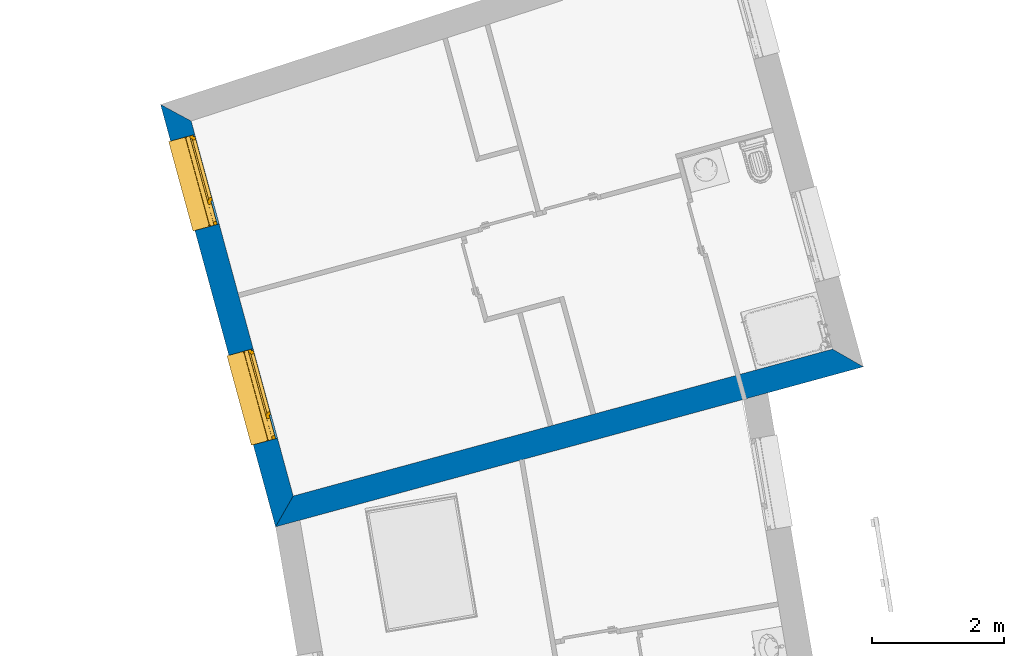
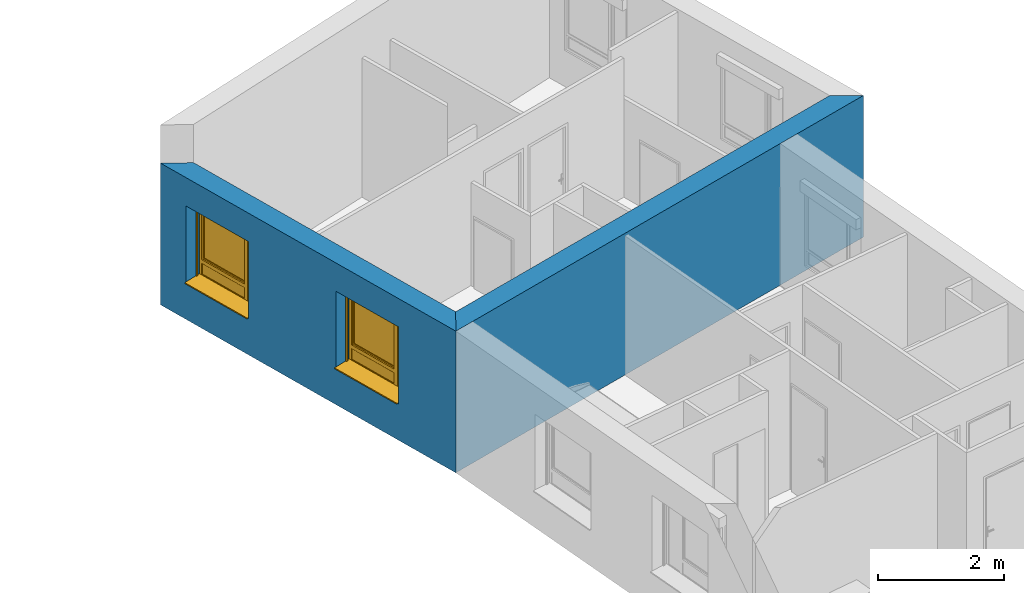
# One storey, part 80 of 121: 2 walls, 2 windows, 2 openings.
"""IFC2X3 building model written with IfcOpenShell, lengths in metres."""

from ifc_helpers import new_model, entity, si_unit, converted_unit, derived_unit, money_unit, direction, frame, origin_with_axes, place, context, subcontext, project, spatial, polyline, outline, extrude, open_shell, faceted_brep, surface_model, source, transform, mapped, material, layer, layer_set, layer_usage, type_object, element, fill, save


model = new_model("IFC2X3")

# Units and contexts
model_context = context("Model", 3, precision=1e-05, world=origin_with_axes(), true_north=direction((0.0, 1.0)))
body_context = subcontext(model_context, "Body", "Model", "MODEL_VIEW")
ifc_project = project(units=[si_unit("LENGTHUNIT", "METRE"), si_unit("AREAUNIT", "SQUARE_METRE"), si_unit("VOLUMEUNIT", "CUBIC_METRE"), converted_unit("PLANEANGLEUNIT", "DEGREE", entity("IfcPlaneAngleMeasure", 0.0174532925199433), si_unit("PLANEANGLEUNIT", "RADIAN"), dimensions=[0, 0, 0, 0, 0, 0, 0]), money_unit("CHF"), converted_unit("TIMEUNIT", "Year", entity("IfcTimeMeasure", 31557600.0), si_unit("TIMEUNIT", "SECOND"), dimensions=[0, 0, 1, 0, 0, 0, 0]), si_unit("MASSUNIT", "GRAM", prefix="KILO"), si_unit("THERMODYNAMICTEMPERATUREUNIT", "DEGREE_CELSIUS"), si_unit("LUMINOUSINTENSITYUNIT", "LUMEN"), si_unit("ENERGYUNIT", "JOULE", prefix="MEGA"), derived_unit("THERMALCONDUCTANCEUNIT", [(si_unit("POWERUNIT", "WATT"), 1), (si_unit("LENGTHUNIT", "METRE"), -1), (si_unit("THERMODYNAMICTEMPERATUREUNIT", "KELVIN"), -1)]), derived_unit("SPECIFICHEATCAPACITYUNIT", [(si_unit("ENERGYUNIT", "JOULE"), 1), (si_unit("MASSUNIT", "GRAM", prefix="KILO"), -1), (si_unit("THERMODYNAMICTEMPERATUREUNIT", "KELVIN"), -1)]), derived_unit("MASSDENSITYUNIT", [(si_unit("MASSUNIT", "GRAM", prefix="KILO"), 1), (si_unit("VOLUMEUNIT", "CUBIC_METRE"), -1)])], contexts=[model_context])

# Site, building, storey
site_placement = place(None, origin_with_axes())
site = spatial("IfcSite", under=ifc_project, at=site_placement, Name="Site", CompositionType="ELEMENT")
building_placement = place(site_placement, origin_with_axes())
building = spatial("IfcBuilding", under=site, at=building_placement, Name="Bâtiment", CompositionType="ELEMENT")
storey_placement = place(building_placement, frame((0.0, 0.0, 2.75), z_axis=(0.0, 0.0, 1.0), x_axis=(1.0, 0.0, 0.0)))
storey = spatial("IfcBuildingStorey", under=building, at=storey_placement, Name="Etage 1", CompositionType="ELEMENT", Elevation=2.75)

# Wall
ifc_material_1 = material(Name="Parpaing 312445824")
ifc_layer_1 = layer(ifc_material_1, 0.22, ventilated="UNKNOWN")
ifc_material_2 = material(Name="Isolant styromousse 301821074")
ifc_layer_2 = layer(ifc_material_2, 0.16, ventilated="UNKNOWN")
ifc_layer_set = layer_set([ifc_layer_1, ifc_layer_2], Name="isol int 22+16 0836643197")
ifc_layer_usage_1 = layer_usage(ifc_layer_set, "AXIS2", "POSITIVE", 0.0)
wall_type = type_object("IfcWallType", Name="isol int 22+16 0836643197 380", PredefinedType="NOTDEFINED")
wall_1_placement = place(storey_placement, frame((9579.832207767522, -1023.042735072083, 57.7), z_axis=(0.0, 0.0, 1.0), x_axis=(0.9648682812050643, 0.2627340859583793, 0.0)))
element("IfcWallStandardCase", 1, at=wall_1_placement, inside=storey, type_object=wall_type, material=ifc_layer_usage_1, Name="Mur-114", context=body_context, shape_type="SweptSolid", body=[
    extrude(outline(polyline([(-4.063281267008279e-09, 0.0), (9.203564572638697, 0.0), (8.82356457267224, 0.3799999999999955), (0.379999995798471, 0.3799999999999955), (-4.063281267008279e-09, 0.0)])), origin_with_axes(), (0.0, 0.0, 1.0), 2.75),
])

# Wall, openings, windows
ifc_layer_usage_2 = layer_usage(ifc_layer_set, "AXIS2", "POSITIVE", 0.0)
wall_2_placement = place(storey_placement, frame((9578.094746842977, -1016.66205963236, 57.7), z_axis=(0.0, 0.0, 1.0), x_axis=(0.262734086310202, -0.9648682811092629, 0.0)))
wall_2 = element("IfcWallStandardCase", 2, at=wall_2_placement, inside=storey, type_object=wall_type, material=ifc_layer_usage_2, Name="Mur-113", context=body_context, shape_type="SweptSolid", body=[
    extrude(outline(polyline([(0.0, 0.0), (6.61300155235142, 0.0), (6.233001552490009, 0.3800000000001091), (0.362070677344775, 0.3800000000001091), (0.0, 0.0)])), origin_with_axes(), (0.0, 0.0, 1.0), 2.75),
])
opening_1_placement = place(wall_2_placement, frame((1.273124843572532, 0.0, 0.7000000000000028), z_axis=(0.0, 0.0, 1.0), x_axis=(1.0, 0.0, 0.0)))
opening_1 = element("IfcOpeningElement", 3, at=opening_1_placement, cuts=wall_2, Name="Fen-045", context=body_context, shape_type="Brep", body=[
    faceted_brep([(-0.7000000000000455, 0.4799999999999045, 1.5), (0.6999999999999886, 0.4799999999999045, 1.5), (0.6999999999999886, 2.057420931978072, 1.5), (-0.7000000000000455, 2.057420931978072, 1.5), (-0.7000000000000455, 0.4799999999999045, 1.700000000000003), (0.6999999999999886, 0.4799999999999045, 1.700000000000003), (0.6999999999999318, 0.3000000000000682, 1.5), (0.6999999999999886, 0.3000000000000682, 0.0), (0.6999999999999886, 2.057420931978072, 0.0), (-0.7000000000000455, 2.057420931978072, 0.0), (-0.7000000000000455, 0.3000000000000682, 1.5), (-0.7000000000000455, 0.3000000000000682, 0.0), (-0.7000000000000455, 0.2199999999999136, 1.5), (-0.7000000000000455, 0.2199999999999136, 1.700000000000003), (0.6999999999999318, 0.2199999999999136, 1.700000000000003), (0.6999999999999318, 0.2199999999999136, 1.5), (0.6999999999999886, -1.677420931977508, 1.5), (0.6999999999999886, -1.677420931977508, 0.0), (-0.6999999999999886, -1.677420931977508, 0.0), (-0.6999999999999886, -1.677420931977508, 1.5)], [[[0, 1, 2, 3]], [[1, 0, 4, 5]], [[1, 6, 7, 8, 2]], [[2, 8, 9, 3]], [[10, 0, 3, 9, 11]], [[0, 10, 12, 13, 4]], [[14, 5, 4, 13]], [[6, 1, 5, 14, 15]], [[6, 15, 16, 17, 7]], [[7, 11, 9, 8]], [[12, 10, 11, 18, 19]], [[12, 15, 14, 13]], [[15, 12, 19, 16]], [[19, 18, 17, 16]], [[11, 7, 17, 18]]]),
])
opening_2_placement = place(wall_2_placement, frame((4.627644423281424, 0.0, 0.7000000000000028), z_axis=(0.0, 0.0, 1.0), x_axis=(1.0, 0.0, 0.0)))
opening_2 = element("IfcOpeningElement", 4, at=opening_2_placement, cuts=wall_2, Name="Fen-045", context=body_context, shape_type="Brep", body=[
    faceted_brep([(-0.7000000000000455, 0.4799999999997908, 1.5), (0.6999999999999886, 0.4799999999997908, 1.5), (0.6999999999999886, 2.057420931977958, 1.5), (-0.6999999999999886, 2.057420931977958, 1.5), (-0.7000000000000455, 0.4799999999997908, 1.700000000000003), (0.6999999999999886, 0.4799999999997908, 1.700000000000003), (0.6999999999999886, 0.2999999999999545, 1.5), (0.6999999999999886, 0.2999999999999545, 0.0), (0.6999999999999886, 2.057420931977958, 0.0), (-0.6999999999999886, 2.057420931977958, 0.0), (-0.6999999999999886, 0.2999999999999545, 1.5), (-0.6999999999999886, 0.2999999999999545, 0.0), (-0.6999999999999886, 0.2199999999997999, 1.5), (-0.6999999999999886, 0.2199999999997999, 1.700000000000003), (0.6999999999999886, 0.2199999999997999, 1.700000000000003), (0.6999999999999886, 0.2199999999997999, 1.5), (0.6999999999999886, -1.677420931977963, 1.5), (0.6999999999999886, -1.677420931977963, 0.0), (-0.6999999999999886, -1.677420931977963, 0.0), (-0.6999999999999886, -1.677420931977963, 1.5)], [[[0, 1, 2, 3]], [[1, 0, 4, 5]], [[1, 6, 7, 8, 2]], [[2, 8, 9, 3]], [[10, 0, 3, 9, 11]], [[0, 10, 12, 13, 4]], [[14, 5, 4, 13]], [[6, 1, 5, 14, 15]], [[6, 15, 16, 17, 7]], [[7, 11, 9, 8]], [[12, 10, 11, 18, 19]], [[12, 15, 14, 13]], [[15, 12, 19, 16]], [[19, 18, 17, 16]], [[11, 7, 17, 18]]]),
])
window_style = type_object("IfcWindowStyle", Name="Fenêtre variable 27", ConstructionType="NOTDEFINED", OperationType="TRIPLE_PANEL_RIGHT", ParameterTakesPrecedence=False, Sizeable=False)
shared_shape = source(origin_with_axes(), body_context, "Body", "SurfaceModel", [
    surface_model("IfcShellBasedSurfaceModel", [(-0.7, -0.05100000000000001, 0.05), (-0.7, -0.05100000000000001, 0.04), (0.7, -0.05100000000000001, 0.04000000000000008), (0.7, -0.05100000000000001, 0.05000000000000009), (-0.7, -0.3799999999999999, 0.02899999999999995), (0.7, -0.3799999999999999, 0.02900000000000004), (-0.7, -0.3799999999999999, 0.008999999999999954), (0.7, -0.3799999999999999, 0.00900000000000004), (-0.7, -0.3699999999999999, 0.01899999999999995), (0.7, -0.3699999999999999, 0.01900000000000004)], [open_shell([[[0, 1, 2, 3]], [[1, 4, 5, 2]], [[4, 6, 7, 5]], [[6, 8, 9, 7]]])]),
    faceted_brep([(-0.7, -0.13, 1.7), (-0.697, -0.13, 1.7), (-0.697, 0.13, 1.7), (-0.7, 0.13, 1.7), (-0.7, -0.13, 1.5), (-0.697, -0.13, 1.5), (-0.697, 0.13, 1.5), (-0.7, 0.13, 1.5)], [[[0, 1, 2, 3]], [[4, 5, 1, 0]], [[1, 5, 6, 2]], [[3, 2, 6, 7]], [[0, 3, 7, 4]], [[7, 6, 5, 4]]]),
    faceted_brep([(0.6970000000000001, -0.1299999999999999, 1.7), (0.7000000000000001, -0.1299999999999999, 1.7), (0.7000000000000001, 0.1300000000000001, 1.7), (0.6970000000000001, 0.1300000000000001, 1.7), (0.6970000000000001, -0.1299999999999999, 1.5), (0.7000000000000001, -0.1299999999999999, 1.5), (0.7000000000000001, 0.1300000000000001, 1.5), (0.6970000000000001, 0.1300000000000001, 1.5)], [[[0, 1, 2, 3]], [[4, 5, 1, 0]], [[1, 5, 6, 2]], [[3, 2, 6, 7]], [[0, 3, 7, 4]], [[7, 6, 5, 4]]]),
    faceted_brep([(-0.697, -0.13, 1.5), (0.697, -0.1299999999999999, 1.5), (0.697, -0.1299999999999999, 1.7), (-0.697, -0.13, 1.7), (-0.697, -0.127, 1.5), (0.697, -0.1269999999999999, 1.5), (0.697, -0.1269999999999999, 1.697), (0.697, 0.1270000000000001, 1.697), (0.697, 0.1270000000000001, 1.503), (0.697, -0.1079999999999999, 1.503), (0.697, -0.1079999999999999, 1.5), (0.697, 0.1300000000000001, 1.5), (0.697, 0.1300000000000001, 1.7), (-0.697, 0.13, 1.7), (-0.697, 0.13, 1.5), (-0.697, -0.108, 1.5), (-0.697, -0.108, 1.503), (-0.697, 0.127, 1.503), (-0.697, 0.127, 1.697), (-0.697, -0.127, 1.697)], [[[0, 1, 2, 3]], [[4, 5, 1, 0]], [[1, 5, 6, 7, 8, 9, 10, 11, 12, 2]], [[3, 2, 12, 13]], [[0, 3, 13, 14, 15, 16, 17, 18, 19, 4]], [[19, 6, 5, 4]], [[18, 7, 6, 19]], [[17, 8, 7, 18]], [[16, 9, 8, 17]], [[15, 10, 9, 16]], [[14, 11, 10, 15]], [[13, 12, 11, 14]]]),
    faceted_brep([(-0.694, -0.08075423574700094, 1.585760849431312), (-0.694, -0.08200000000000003, 1.6), (-0.694, -0.0807542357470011, 1.614239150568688), (-0.694, -0.07705479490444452, 1.628045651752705), (-0.694, -0.07101408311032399, 1.641), (-0.694, -0.06281564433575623, 1.652708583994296), (-0.694, -0.05270858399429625, 1.662815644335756), (-0.694, -0.04100000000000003, 1.671014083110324), (-0.694, -0.02804565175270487, 1.677054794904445), (-0.694, -0.01423915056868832, 1.680754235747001), (-0.694, 0.0, 1.682), (-0.694, 0.01423915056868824, 1.680754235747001), (-0.694, 0.02804565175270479, 1.677054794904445), (-0.694, 0.04099999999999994, 1.671014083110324), (-0.694, 0.05270858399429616, 1.662815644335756), (-0.694, 0.06281564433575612, 1.652708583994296), (-0.694, 0.07101408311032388, 1.641), (-0.694, 0.0770547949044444, 1.628045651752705), (-0.694, 0.08075423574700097, 1.614239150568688), (-0.694, 0.0819999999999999, 1.6), (-0.694, 0.08075423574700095, 1.585760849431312), (-0.694, 0.07705479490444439, 1.571954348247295), (-0.694, 0.07101408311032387, 1.559), (-0.694, 0.06281564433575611, 1.547291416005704), (-0.694, 0.05270858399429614, 1.537184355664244), (-0.694, 0.04099999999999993, 1.528985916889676), (-0.694, 0.02804565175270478, 1.522945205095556), (-0.694, 0.01423915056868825, 1.519245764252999), (-0.694, 0.0, 1.518), (-0.694, -0.01423915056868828, 1.519245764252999), (-0.694, -0.02804565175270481, 1.522945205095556), (-0.694, -0.04099999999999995, 1.528985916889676), (-0.694, -0.05270858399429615, 1.537184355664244), (-0.694, -0.06281564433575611, 1.547291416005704), (-0.694, -0.07101408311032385, 1.559), (-0.694, -0.07705479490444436, 1.571954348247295), (0.694, -0.08075423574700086, 1.585760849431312), (0.694, -0.08199999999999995, 1.6), (0.694, -0.08075423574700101, 1.614239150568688), (0.694, -0.07705479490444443, 1.628045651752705), (0.694, -0.07101408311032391, 1.641), (0.694, -0.06281564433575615, 1.652708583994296), (0.694, -0.05270858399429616, 1.662815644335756), (0.694, -0.04099999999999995, 1.671014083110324), (0.694, -0.02804565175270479, 1.677054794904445), (0.694, -0.01423915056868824, 1.680754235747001), (0.694, 0.0, 1.682), (0.694, 0.01423915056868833, 1.680754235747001), (0.694, 0.02804565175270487, 1.677054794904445), (0.694, 0.04100000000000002, 1.671014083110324), (0.694, 0.05270858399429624, 1.662815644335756), (0.694, 0.0628156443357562, 1.652708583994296), (0.694, 0.07101408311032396, 1.641), (0.694, 0.07705479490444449, 1.628045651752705), (0.694, 0.08075423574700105, 1.614239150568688), (0.694, 0.08199999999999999, 1.6), (0.694, 0.08075423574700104, 1.585760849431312), (0.694, 0.07705479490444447, 1.571954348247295), (0.694, 0.07101408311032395, 1.559), (0.694, 0.06281564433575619, 1.547291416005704), (0.694, 0.05270858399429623, 1.537184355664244), (0.694, 0.04100000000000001, 1.528985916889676), (0.694, 0.02804565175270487, 1.522945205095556), (0.694, 0.01423915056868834, 1.519245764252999), (0.694, 0.0, 1.518), (0.694, -0.0142391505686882, 1.519245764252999), (0.694, -0.02804565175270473, 1.522945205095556), (0.694, -0.04099999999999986, 1.528985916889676), (0.694, -0.05270858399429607, 1.537184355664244), (0.694, -0.06281564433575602, 1.547291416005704), (0.694, -0.07101408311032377, 1.559), (0.694, -0.07705479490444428, 1.571954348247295)], [[[0, 1, 2, 3, 4, 5, 6, 7, 8, 9, 10, 11, 12, 13, 14, 15, 16, 17, 18, 19, 20, 21, 22, 23, 24, 25, 26, 27, 28, 29, 30, 31, 32, 33, 34, 35]], [[0, 36, 37, 1]], [[1, 37, 38, 2]], [[2, 38, 39, 3]], [[3, 39, 40, 4]], [[4, 40, 41, 5]], [[5, 41, 42, 6]], [[6, 42, 43, 7]], [[7, 43, 44, 8]], [[8, 44, 45, 9]], [[9, 45, 46, 10]], [[10, 46, 47, 11]], [[11, 47, 48, 12]], [[12, 48, 49, 13]], [[13, 49, 50, 14]], [[14, 50, 51, 15]], [[15, 51, 52, 16]], [[16, 52, 53, 17]], [[17, 53, 54, 18]], [[18, 54, 55, 19]], [[19, 55, 56, 20]], [[20, 56, 57, 21]], [[21, 57, 58, 22]], [[22, 58, 59, 23]], [[23, 59, 60, 24]], [[24, 60, 61, 25]], [[25, 61, 62, 26]], [[26, 62, 63, 27]], [[27, 63, 64, 28]], [[28, 64, 65, 29]], [[29, 65, 66, 30]], [[30, 66, 67, 31]], [[31, 67, 68, 32]], [[32, 68, 69, 33]], [[33, 69, 70, 34]], [[34, 70, 71, 35]], [[35, 71, 36, 0]], [[36, 71, 70, 69, 68, 67, 66, 65, 64, 63, 62, 61, 60, 59, 58, 57, 56, 55, 54, 53, 52, 51, 50, 49, 48, 47, 46, 45, 44, 43, 42, 41, 40, 39, 38, 37]]]),
    faceted_brep([(0.7, -0.105, 0.03), (0.7, -0.1049999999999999, 1.5), (0.7, -0.1299999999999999, 1.5), (0.7, -0.13, 0.03), (0.6749999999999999, -0.105, 0.03), (0.6749999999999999, -0.1049999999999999, 1.5), (0.6749999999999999, -0.1079999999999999, 1.5), (0.697, -0.1079999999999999, 1.5), (0.697, -0.1269999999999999, 1.5), (0.6749999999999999, -0.1269999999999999, 1.5), (0.6749999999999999, -0.1299999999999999, 1.5), (0.6749999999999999, -0.13, 0.03), (0.6749999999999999, -0.127, 0.03), (0.697, -0.127, 0.03), (0.697, -0.108, 0.03), (0.6749999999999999, -0.108, 0.03)], [[[0, 1, 2, 3]], [[4, 5, 1, 0]], [[1, 5, 6, 7, 8, 9, 10, 2]], [[3, 2, 10, 11]], [[0, 3, 11, 12, 13, 14, 15, 4]], [[15, 6, 5, 4]], [[14, 7, 6, 15]], [[13, 8, 7, 14]], [[12, 9, 8, 13]], [[11, 10, 9, 12]]]),
    faceted_brep([(-0.7, -0.105, 0.03), (-0.7, -0.13, 0.03), (-0.7, -0.1299999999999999, 1.5), (-0.7, -0.1049999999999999, 1.5), (-0.6749999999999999, -0.105, 0.03), (-0.6749999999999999, -0.108, 0.03), (-0.697, -0.108, 0.03), (-0.697, -0.127, 0.03), (-0.6749999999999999, -0.127, 0.03), (-0.6749999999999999, -0.13, 0.03), (-0.6749999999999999, -0.1299999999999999, 1.5), (-0.6749999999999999, -0.1269999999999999, 1.5), (-0.697, -0.1269999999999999, 1.5), (-0.697, -0.1079999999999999, 1.5), (-0.6749999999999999, -0.1079999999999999, 1.5), (-0.6749999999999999, -0.1049999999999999, 1.5)], [[[0, 1, 2, 3]], [[0, 4, 5, 6, 7, 8, 9, 1]], [[1, 9, 10, 2]], [[3, 2, 10, 11, 12, 13, 14, 15]], [[4, 0, 3, 15]], [[5, 4, 15, 14]], [[6, 5, 14, 13]], [[7, 6, 13, 12]], [[8, 7, 12, 11]], [[9, 8, 11, 10]]]),
    surface_model("IfcShellBasedSurfaceModel", [(-0.697, -0.115, 1.6), (0.697, -0.1149999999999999, 1.6), (0.697, -0.1199999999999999, 1.6), (-0.697, -0.12, 1.6), (-0.697, -0.115, 1.6), (-0.697, -0.12, 1.6), (0.697, -0.12, 1.6), (0.697, -0.1149999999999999, 1.6)], [open_shell([[[0, 1, 2, 3]], [[4, 5, 6, 7]]])]),
    faceted_brep([(-0.697, -0.115, 1.6), (0.697, -0.1149999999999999, 1.6), (0.697, -0.1166666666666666, 1.583333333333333), (-0.697, -0.1166666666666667, 1.583333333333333), (-0.697, -0.12, 1.6), (0.697, -0.1199999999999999, 1.6), (0.697, -0.1216666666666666, 1.583333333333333), (0.697, -0.1216666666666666, 1.566666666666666), (0.697, -0.1199999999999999, 1.55), (0.697, -0.1149999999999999, 1.55), (0.697, -0.1166666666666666, 1.566666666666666), (-0.697, -0.1166666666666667, 1.566666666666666), (-0.697, -0.115, 1.55), (-0.697, -0.12, 1.55), (-0.697, -0.1216666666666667, 1.566666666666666), (-0.697, -0.1216666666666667, 1.583333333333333)], [[[0, 1, 2, 3]], [[4, 5, 1, 0]], [[1, 5, 6, 7, 8, 9, 10, 2]], [[3, 2, 10, 11]], [[0, 3, 11, 12, 13, 14, 15, 4]], [[15, 6, 5, 4]], [[14, 7, 6, 15]], [[13, 8, 7, 14]], [[12, 9, 8, 13]], [[11, 10, 9, 12]]]),
    faceted_brep([(-0.697, -0.115, 1.55), (0.697, -0.1149999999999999, 1.55), (0.697, -0.1166666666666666, 1.533333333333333), (-0.697, -0.1166666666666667, 1.533333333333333), (-0.697, -0.12, 1.55), (0.697, -0.1199999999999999, 1.55), (0.697, -0.1216666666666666, 1.533333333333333), (0.697, -0.1216666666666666, 1.516666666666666), (0.697, -0.1199999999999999, 1.5), (0.697, -0.1149999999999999, 1.5), (0.697, -0.1166666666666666, 1.516666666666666), (-0.697, -0.1166666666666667, 1.516666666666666), (-0.697, -0.115, 1.5), (-0.697, -0.12, 1.5), (-0.697, -0.1216666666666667, 1.516666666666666), (-0.697, -0.1216666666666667, 1.533333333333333)], [[[0, 1, 2, 3]], [[4, 5, 1, 0]], [[1, 5, 6, 7, 8, 9, 10, 2]], [[3, 2, 10, 11]], [[0, 3, 11, 12, 13, 14, 15, 4]], [[15, 6, 5, 4]], [[14, 7, 6, 15]], [[13, 8, 7, 14]], [[12, 9, 8, 13]], [[11, 10, 9, 12]]]),
    faceted_brep([(-0.6749999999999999, 0.0, 1.45), (-0.7, 0.0, 1.45), (-0.7, -0.05000000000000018, 1.45), (-0.6499999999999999, -0.05000000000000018, 1.45), (-0.6499999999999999, -0.02500000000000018, 1.45), (-0.6749999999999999, -0.02500000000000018, 1.45), (-0.6749999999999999, 0.0, 0.3099999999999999), (-0.6499999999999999, 0.0, 0.3099999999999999), (-0.6499999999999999, 0.0, 0.265), (-0.6499999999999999, 0.0, 0.05000000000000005), (-0.7, 0.0, 0.05000000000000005), (-0.7, -0.05000000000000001, 0.05000000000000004), (-0.6499999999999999, -0.05000000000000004, 0.335), (-0.6499999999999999, -0.05000000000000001, 0.05000000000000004), (-0.6499999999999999, -0.05000000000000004, 0.265), (-0.6499999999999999, -0.02500000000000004, 0.335), (-0.6499999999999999, -0.02500000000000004, 0.3099999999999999), (-0.6749999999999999, -0.02500000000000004, 0.3099999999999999)], [[[0, 1, 2, 3, 4, 5]], [[6, 7, 8, 9, 10, 1, 0]], [[1, 10, 11, 2]], [[12, 3, 2, 11, 13, 14]], [[4, 3, 12, 15]], [[15, 16, 17, 5, 4]], [[5, 17, 6, 0]], [[6, 17, 16, 7]], [[16, 15, 12, 14, 8, 7]], [[9, 8, 14, 13]], [[10, 9, 13, 11]]]),
    faceted_brep([(0.3068894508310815, -0.02500000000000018, 1.45), (0.3068894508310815, -0.05000000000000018, 1.45), (0.3768894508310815, -0.05000000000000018, 1.45), (0.3768894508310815, 0.0, 1.45), (0.3318894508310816, 0.0, 1.45), (0.3318894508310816, -0.02500000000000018, 1.45), (0.3068894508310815, -0.02500000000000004, 0.335), (0.3068894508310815, -0.05000000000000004, 0.335), (0.3068894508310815, -0.05000000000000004, 0.265), (0.3068894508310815, -0.05000000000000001, 0.05000000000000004), (0.3768894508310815, -0.05000000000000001, 0.05000000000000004), (0.3768894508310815, 0.0, 0.05000000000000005), (0.3318894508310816, 0.0, 0.3099999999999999), (0.3068894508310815, 0.0, 0.05000000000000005), (0.3068894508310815, 0.0, 0.265), (0.3068894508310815, 0.0, 0.3099999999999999), (0.3318894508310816, -0.02500000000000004, 0.3099999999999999), (0.3068894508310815, -0.02500000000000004, 0.3099999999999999)], [[[0, 1, 2, 3, 4, 5]], [[6, 7, 1, 0]], [[8, 9, 10, 2, 1, 7]], [[11, 3, 2, 10]], [[12, 4, 3, 11, 13, 14, 15]], [[12, 16, 5, 4]], [[5, 16, 17, 6, 0]], [[17, 15, 14, 8, 7, 6]], [[14, 13, 9, 8]], [[13, 11, 10, 9]], [[15, 17, 16, 12]]]),
    faceted_brep([(-0.6499999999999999, -0.02500000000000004, 0.335), (-0.6499999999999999, -0.05000000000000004, 0.335), (0.3068894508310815, -0.05000000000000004, 0.335), (0.3068894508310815, -0.02500000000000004, 0.335), (-0.6499999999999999, -0.02500000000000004, 0.3099999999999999), (-0.6499999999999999, 0.0, 0.3099999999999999), (-0.6499999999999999, 0.0, 0.265), (-0.6499999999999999, -0.05000000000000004, 0.265), (0.3068894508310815, -0.05000000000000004, 0.265), (0.3068894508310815, -0.02500000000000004, 0.3099999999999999), (0.3068894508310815, 0.0, 0.265), (0.3068894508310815, 0.0, 0.3099999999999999)], [[[0, 1, 2, 3]], [[4, 5, 6, 7, 1, 0]], [[2, 1, 7, 8]], [[9, 3, 2, 8, 10, 11]], [[9, 4, 0, 3]], [[5, 4, 9, 11]], [[11, 10, 6, 5]], [[6, 10, 8, 7]]]),
    faceted_brep([(-0.6749999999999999, 0.0, 1.45), (-0.7, 0.0, 1.45), (-0.7, 0.0, 1.5), (0.7, 0.0, 1.5), (0.7, 0.0, 1.45), (0.6499999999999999, 0.0, 1.45), (0.3768894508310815, 0.0, 1.45), (0.3318894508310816, 0.0, 1.45), (0.3318894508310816, 0.0, 1.475), (-0.6749999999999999, 0.0, 1.475), (-0.6749999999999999, -0.02500000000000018, 1.45), (-0.6499999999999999, -0.02500000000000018, 1.45), (-0.6499999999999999, -0.05000000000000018, 1.45), (-0.7, -0.05000000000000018, 1.45), (-0.7, -0.05000000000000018, 1.5), (0.7, -0.05000000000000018, 1.5), (0.7, -0.05000000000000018, 1.45), (0.6499999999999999, -0.05000000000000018, 1.45), (0.3768894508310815, -0.05000000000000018, 1.45), (0.3318894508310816, -0.02500000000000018, 1.45), (0.3068894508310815, -0.05000000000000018, 1.45), (0.3068894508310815, -0.02500000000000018, 1.45), (0.3318894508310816, -0.02500000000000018, 1.475), (-0.6749999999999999, -0.02500000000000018, 1.475)], [[[0, 1, 2, 3, 4, 5, 6, 7, 8, 9]], [[10, 11, 12, 13, 1, 0]], [[2, 1, 13, 14]], [[3, 2, 14, 15]], [[4, 3, 15, 16]], [[5, 4, 16, 17]], [[6, 5, 17, 18]], [[19, 7, 6, 18, 20, 21]], [[7, 19, 22, 8]], [[8, 22, 23, 9]], [[9, 23, 10, 0]], [[21, 11, 10, 23, 22, 19]], [[21, 20, 12, 11]], [[18, 17, 16, 15, 14, 13, 12, 20]]]),
    faceted_brep([(0.6499999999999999, -0.05000000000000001, 0.05), (0.6499999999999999, 0.0, 0.05000000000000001), (0.7, 0.0, 0.05000000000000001), (0.7, -0.05000000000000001, 0.05), (0.6499999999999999, -0.05000000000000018, 1.45), (0.6499999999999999, 0.0, 1.45), (0.7, 0.0, 1.45), (0.7, -0.05000000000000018, 1.45)], [[[0, 1, 2, 3]], [[4, 5, 1, 0]], [[1, 5, 6, 2]], [[3, 2, 6, 7]], [[0, 3, 7, 4]], [[7, 6, 5, 4]]]),
    faceted_brep([(-0.6499999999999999, -0.05000000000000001, 0.05), (-0.6499999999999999, 0.0, 0.05000000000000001), (-0.7, 0.0, 0.05000000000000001), (-0.7, -0.05000000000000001, 0.05), (0.3068894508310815, -0.05000000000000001, 0.05), (0.3068894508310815, 0.0, 0.05000000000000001), (0.3768894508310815, 0.0, 0.05000000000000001), (0.6499999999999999, 0.0, 0.05000000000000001), (0.7, 0.0, 0.05000000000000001), (0.7, 0.0, 0.0), (-0.7, 0.0, 0.0), (-0.7, -0.05, 0.0), (0.7, -0.05, 0.0), (0.7, -0.05000000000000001, 0.05), (0.6499999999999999, -0.05000000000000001, 0.05), (0.3768894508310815, -0.05000000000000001, 0.05)], [[[0, 1, 2, 3]], [[4, 5, 1, 0]], [[1, 5, 6, 7, 8, 9, 10, 2]], [[3, 2, 10, 11]], [[0, 3, 11, 12, 13, 14, 15, 4]], [[15, 6, 5, 4]], [[14, 7, 6, 15]], [[13, 8, 7, 14]], [[12, 9, 8, 13]], [[11, 10, 9, 12]]]),
    faceted_brep([(-0.625, -0.02500000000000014, 1.425), (-0.625, 0.02499999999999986, 1.425), (-0.6749999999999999, 0.02499999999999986, 1.425), (-0.6749999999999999, -0.02500000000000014, 1.425), (-0.625, -0.02500000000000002, 0.3599999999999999), (-0.625, 0.02499999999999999, 0.3599999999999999), (-0.6749999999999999, 0.02499999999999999, 0.3599999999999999), (-0.6749999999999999, -0.02500000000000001, 0.3599999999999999)], [[[0, 1, 2, 3]], [[4, 5, 1, 0]], [[1, 5, 6, 2]], [[3, 2, 6, 7]], [[0, 3, 7, 4]], [[7, 6, 5, 4]]]),
    faceted_brep([(0.2818894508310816, -0.02500000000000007, 0.3599999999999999), (0.2818894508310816, 0.02499999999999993, 0.3599999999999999), (0.3318894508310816, 0.02499999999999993, 0.3599999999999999), (0.3318894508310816, -0.02500000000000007, 0.3599999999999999), (0.2818894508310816, -0.0250000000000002, 1.425), (0.2818894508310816, 0.0249999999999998, 1.425), (0.3318894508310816, 0.0249999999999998, 1.425), (0.3318894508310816, -0.0250000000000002, 1.425)], [[[0, 1, 2, 3]], [[4, 5, 1, 0]], [[1, 5, 6, 2]], [[3, 2, 6, 7]], [[0, 3, 7, 4]], [[7, 6, 5, 4]]]),
    faceted_brep([(0.3318894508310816, -0.02500000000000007, 0.3099999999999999), (0.3318894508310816, 0.02499999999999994, 0.3099999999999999), (0.3318894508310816, 0.02499999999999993, 0.3599999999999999), (0.3318894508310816, -0.02500000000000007, 0.3599999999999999), (-0.6749999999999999, -0.025, 0.3099999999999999), (-0.6749999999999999, 0.02499999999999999, 0.3099999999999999), (-0.6749999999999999, 0.02499999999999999, 0.3599999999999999), (-0.625, 0.02499999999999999, 0.3599999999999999), (0.2818894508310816, 0.02499999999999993, 0.3599999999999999), (0.2818894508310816, -0.02500000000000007, 0.3599999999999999), (-0.625, -0.02500000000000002, 0.3599999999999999), (-0.6749999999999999, -0.02500000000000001, 0.3599999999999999)], [[[0, 1, 2, 3]], [[4, 5, 1, 0]], [[1, 5, 6, 7, 8, 2]], [[3, 2, 8, 9]], [[0, 3, 9, 10, 11, 4]], [[11, 6, 5, 4]], [[10, 7, 6, 11]], [[9, 8, 7, 10]]]),
    faceted_brep([(-0.6749999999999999, -0.02500000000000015, 1.475), (-0.6749999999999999, 0.02499999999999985, 1.475), (-0.6749999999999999, 0.02499999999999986, 1.425), (-0.6749999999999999, -0.02500000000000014, 1.425), (0.3318894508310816, -0.02500000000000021, 1.475), (0.3318894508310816, 0.02499999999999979, 1.475), (0.3318894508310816, 0.0249999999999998, 1.425), (0.2818894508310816, 0.0249999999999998, 1.425), (-0.625, 0.02499999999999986, 1.425), (-0.625, -0.02500000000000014, 1.425), (0.2818894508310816, -0.0250000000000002, 1.425), (0.3318894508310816, -0.0250000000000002, 1.425)], [[[0, 1, 2, 3]], [[4, 5, 1, 0]], [[1, 5, 6, 7, 8, 2]], [[3, 2, 8, 9]], [[0, 3, 9, 10, 11, 4]], [[11, 6, 5, 4]], [[10, 7, 6, 11]], [[9, 8, 7, 10]]]),
    surface_model("IfcShellBasedSurfaceModel", [(-0.625, -0.01000000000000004, 0.3599999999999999), (0.2818894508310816, -0.01000000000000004, 0.3599999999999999), (0.2818894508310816, -0.01000000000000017, 1.425), (-0.625, -0.01000000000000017, 1.425)], [open_shell([[[0, 1, 2, 3]]])]),
    surface_model("IfcShellBasedSurfaceModel", [(-0.625, 0.009999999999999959, 0.3599999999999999), (-0.625, 0.00999999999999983, 1.425), (0.2818894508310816, 0.00999999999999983, 1.425), (0.2818894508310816, 0.009999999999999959, 0.3599999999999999)], [open_shell([[[0, 1, 2, 3]]])]),
    surface_model("IfcShellBasedSurfaceModel", [(0.3768894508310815, -0.035, 0.05), (0.65, -0.035, 0.05), (0.65, -0.03500000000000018, 1.45), (0.3768894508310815, -0.03500000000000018, 1.45)], [open_shell([[[0, 1, 2, 3]]])]),
    surface_model("IfcShellBasedSurfaceModel", [(0.3768894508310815, -0.015, 0.05), (0.3768894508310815, -0.01500000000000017, 1.45), (0.65, -0.01500000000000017, 1.45), (0.65, -0.015, 0.05)], [open_shell([[[0, 1, 2, 3]]])]),
    surface_model("IfcShellBasedSurfaceModel", [(-0.6499999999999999, -0.035, 0.05), (0.3068894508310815, -0.035, 0.05), (0.3068894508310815, -0.03500000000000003, 0.265), (-0.6499999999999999, -0.03500000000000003, 0.265)], [open_shell([[[0, 1, 2, 3]]])]),
    surface_model("IfcShellBasedSurfaceModel", [(-0.6499999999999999, -0.015, 0.05), (-0.6499999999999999, -0.01500000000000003, 0.265), (0.3068894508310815, -0.01500000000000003, 0.265), (0.3068894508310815, -0.015, 0.05)], [open_shell([[[0, 1, 2, 3]]])]),
])
window_1_placement = place(opening_2_placement, frame((-0.6999999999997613, 0.0, 0.0), z_axis=(0.0, 0.0, 1.0), x_axis=(1.0, 0.0, 0.0)))
window_1 = element("IfcWindow", 5, at=window_1_placement, inside=storey, type_object=window_style, Name="Fen-045", OverallHeight=1.5, OverallWidth=1.4, context=body_context, shape_type="MappedRepresentation", body=[
    mapped(shared_shape, transform((0.6999999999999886, 0.3500000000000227, 0.0))),
])
fill(opening_2, window_1)
window_2_placement = place(opening_1_placement, frame((-0.7000000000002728, 0.0, 0.0), z_axis=(0.0, 0.0, 1.0), x_axis=(1.0, 0.0, 0.0)))
window_2 = element("IfcWindow", 6, at=window_2_placement, inside=storey, type_object=window_style, Name="Fen-045", OverallHeight=1.5, OverallWidth=1.4, context=body_context, shape_type="MappedRepresentation", body=[
    mapped(shared_shape, transform((0.7000000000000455, 0.3499999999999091, 0.0))),
])
fill(opening_1, window_2)

save(model, "model.ifc")
